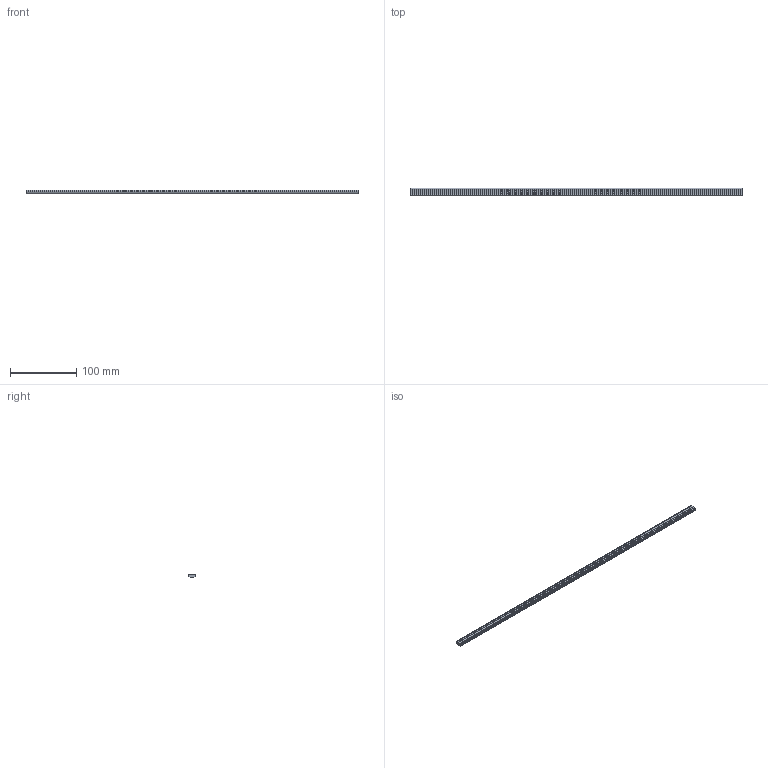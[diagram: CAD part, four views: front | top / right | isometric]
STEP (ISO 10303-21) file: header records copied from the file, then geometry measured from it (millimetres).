
FILE_DESCRIPTION( ( 'Unknown' ), '1' );
FILE_NAME( 'C:/Users/Fabrizio/Desktop/DISEGNI ACCESSORI FP SOLIDEDGE/CA.GWP.500.stp', 'Unknown', ( 'Unknown' ), ( 'Unknown' ), 'PSStep 13.0', 'Unknown', ' ' );
FILE_SCHEMA( ( 'AUTOMOTIVE_DESIGN { 1 0 10303 214 1 1 1 1 }' ) );
Length unit declared in the file: millimetre
Products named in the file (1): 1
Bounding box: 500 x 10.6 x 6 mm (x, y, z)
Volume: 26571.8 mm3; surface area: 15983.4 mm2
Topology: 1 solids, 1 shells, 21 faces, 57 edges, 38 vertices
Faces by surface type: plane 13, cylinder 8
Entity records: 682 total; most frequent: CARTESIAN_POINT 117, DIRECTION 117, ORIENTED_EDGE 114, EDGE_CURVE 57, LINE 41, VECTOR 41, AXIS2_PLACEMENT_3D 38, VERTEX_POINT 38
